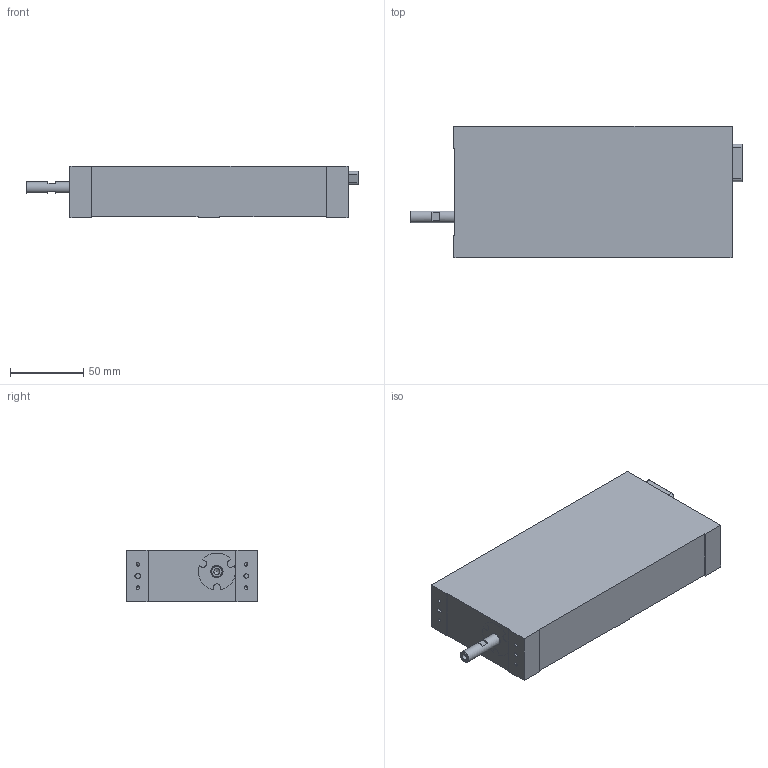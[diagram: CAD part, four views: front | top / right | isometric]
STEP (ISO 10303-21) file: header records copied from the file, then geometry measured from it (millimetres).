
FILE_DESCRIPTION((''),'2;1');
FILE_NAME('C:\smac-cad\WEB UPDATE SOLID MODELS\COLUMN-2\LAL35-100-55.stp','2011-10-31T11:26:40',('karl'),(''),'Autodesk Inventor 2008','Autodesk Inventor 2008','');
FILE_SCHEMA(('AUTOMOTIVE_DESIGN { 1 0 10303 214 1 1 1 1 }'));
Length unit declared in the file: millimetre
Products named in the file (1): LAL35-100-55
Bounding box: 226.8 x 90 x 35 mm (x, y, z)
Volume: 589482.2 mm3; surface area: 56636.1 mm2
Topology: 1 solids, 1 shells, 168 faces, 365 edges, 238 vertices
Faces by surface type: plane 93, cylinder 65, cone 9, torus 1
Full cylindrical faces by diameter (mm): 1 x24, 1.567 x3, 2 x1, 2.2 x1, 2.459 x8, 3 x4, 4.134 x1, 6.72 x1, 8 x1, 8.4 x1
Entity records: 4317 total; most frequent: CARTESIAN_POINT 780, DIRECTION 765, ORIENTED_EDGE 592, AXIS2_PLACEMENT_3D 304, EDGE_CURVE 296, EDGE_LOOP 268, VERTEX_POINT 225, FACE_OUTER_BOUND 168
